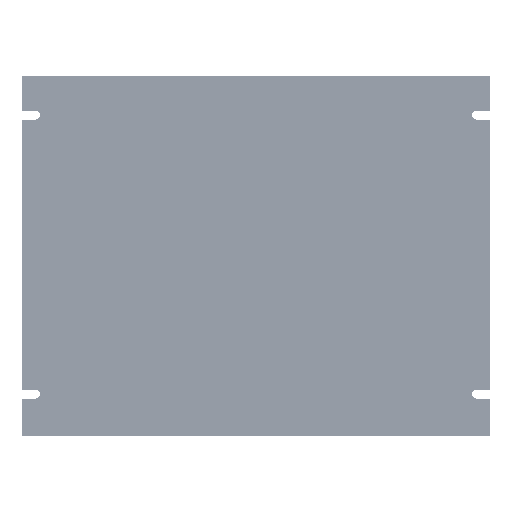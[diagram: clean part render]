
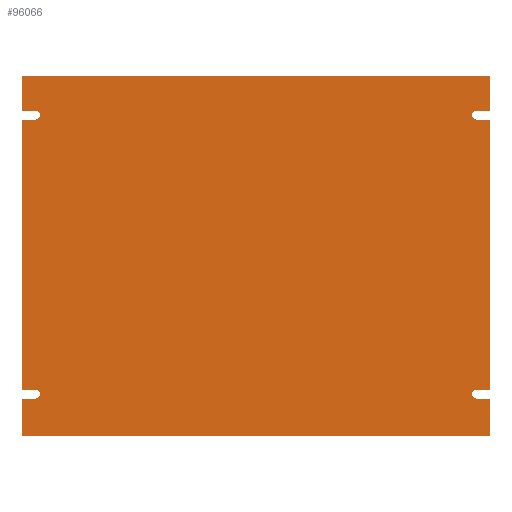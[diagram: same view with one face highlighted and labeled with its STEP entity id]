
A CAD part, top view. The second image highlights one B-rep face of the part: STEP entity #96066.
In plain terms, the highlighted planar face has unit normal (0, 0, 1) as drawn and (0, 0, -1) by its records, which use the part's own axes.
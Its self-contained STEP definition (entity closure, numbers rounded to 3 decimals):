
#6984=CIRCLE('',#103814,0.125);
#6985=CIRCLE('',#103815,0.125);
#6986=CIRCLE('',#103816,0.125);
#6987=CIRCLE('',#103817,0.125);
#11850=FACE_OUTER_BOUND('',#18305,.T.);
#18305=EDGE_LOOP('',(#87363,#87364,#87365,#87366,#87367,#87368,#87369,#87370,
#87371,#87372,#87373,#87374,#87375,#87376,#87377,#87378,#87379,#87380,#87381,
#87382));
#28901=LINE('',#156260,#39545);
#28917=LINE('',#156294,#39561);
#28918=LINE('',#156298,#39562);
#28924=LINE('',#156311,#39568);
#28928=LINE('',#156320,#39572);
#28930=LINE('',#156325,#39574);
#28939=LINE('',#156342,#39583);
#28947=LINE('',#156360,#39591);
#28951=LINE('',#156370,#39595);
#28952=LINE('',#156373,#39596);
#28953=LINE('',#156375,#39597);
#28954=LINE('',#156378,#39598);
#28955=LINE('',#156380,#39599);
#28956=LINE('',#156383,#39600);
#28957=LINE('',#156385,#39601);
#28958=LINE('',#156388,#39602);
#39545=VECTOR('',#129102,1.038);
#39561=VECTOR('',#129124,1.038);
#39562=VECTOR('',#129127,7.5);
#39568=VECTOR('',#129135,7.5);
#39572=VECTOR('',#129141,0.963);
#39574=VECTOR('',#129145,0.963);
#39583=VECTOR('',#129158,13.);
#39591=VECTOR('',#129174,13.);
#39595=VECTOR('',#129184,0.375);
#39596=VECTOR('',#129187,0.375);
#39597=VECTOR('',#129188,0.375);
#39598=VECTOR('',#129191,0.375);
#39599=VECTOR('',#129192,0.375);
#39600=VECTOR('',#129195,0.375);
#39601=VECTOR('',#129196,0.375);
#39602=VECTOR('',#129199,0.375);
#48206=VERTEX_POINT('',#156257);
#48207=VERTEX_POINT('',#156259);
#48218=VERTEX_POINT('',#156284);
#48222=VERTEX_POINT('',#156292);
#48223=VERTEX_POINT('',#156296);
#48224=VERTEX_POINT('',#156297);
#48229=VERTEX_POINT('',#156308);
#48230=VERTEX_POINT('',#156310);
#48233=VERTEX_POINT('',#156317);
#48234=VERTEX_POINT('',#156319);
#48235=VERTEX_POINT('',#156323);
#48236=VERTEX_POINT('',#156324);
#48251=VERTEX_POINT('',#156369);
#48252=VERTEX_POINT('',#156371);
#48253=VERTEX_POINT('',#156374);
#48254=VERTEX_POINT('',#156376);
#48255=VERTEX_POINT('',#156379);
#48256=VERTEX_POINT('',#156381);
#48257=VERTEX_POINT('',#156384);
#48258=VERTEX_POINT('',#156386);
#61252=EDGE_CURVE('',#48206,#48207,#28901,.T.);
#61268=EDGE_CURVE('',#48222,#48218,#28917,.T.);
#61269=EDGE_CURVE('',#48223,#48224,#28918,.T.);
#61275=EDGE_CURVE('',#48229,#48230,#28924,.T.);
#61279=EDGE_CURVE('',#48233,#48234,#28928,.T.);
#61281=EDGE_CURVE('',#48235,#48236,#28930,.T.);
#61290=EDGE_CURVE('',#48235,#48234,#28939,.T.);
#61301=EDGE_CURVE('',#48206,#48218,#28947,.T.);
#61306=EDGE_CURVE('',#48251,#48222,#28951,.T.);
#61307=EDGE_CURVE('',#48252,#48251,#6984,.T.);
#61308=EDGE_CURVE('',#48224,#48252,#28952,.T.);
#61309=EDGE_CURVE('',#48253,#48223,#28953,.T.);
#61310=EDGE_CURVE('',#48254,#48253,#6985,.T.);
#61311=EDGE_CURVE('',#48236,#48254,#28954,.T.);
#61312=EDGE_CURVE('',#48255,#48233,#28955,.T.);
#61313=EDGE_CURVE('',#48256,#48255,#6986,.T.);
#61314=EDGE_CURVE('',#48230,#48256,#28956,.T.);
#61315=EDGE_CURVE('',#48257,#48229,#28957,.T.);
#61316=EDGE_CURVE('',#48258,#48257,#6987,.T.);
#61317=EDGE_CURVE('',#48207,#48258,#28958,.T.);
#87363=ORIENTED_EDGE('',*,*,#61306,.F.);
#87364=ORIENTED_EDGE('',*,*,#61307,.F.);
#87365=ORIENTED_EDGE('',*,*,#61308,.F.);
#87366=ORIENTED_EDGE('',*,*,#61269,.F.);
#87367=ORIENTED_EDGE('',*,*,#61309,.F.);
#87368=ORIENTED_EDGE('',*,*,#61310,.F.);
#87369=ORIENTED_EDGE('',*,*,#61311,.F.);
#87370=ORIENTED_EDGE('',*,*,#61281,.F.);
#87371=ORIENTED_EDGE('',*,*,#61290,.T.);
#87372=ORIENTED_EDGE('',*,*,#61279,.F.);
#87373=ORIENTED_EDGE('',*,*,#61312,.F.);
#87374=ORIENTED_EDGE('',*,*,#61313,.F.);
#87375=ORIENTED_EDGE('',*,*,#61314,.F.);
#87376=ORIENTED_EDGE('',*,*,#61275,.F.);
#87377=ORIENTED_EDGE('',*,*,#61315,.F.);
#87378=ORIENTED_EDGE('',*,*,#61316,.F.);
#87379=ORIENTED_EDGE('',*,*,#61317,.F.);
#87380=ORIENTED_EDGE('',*,*,#61252,.F.);
#87381=ORIENTED_EDGE('',*,*,#61301,.T.);
#87382=ORIENTED_EDGE('',*,*,#61268,.F.);
#91201=PLANE('',#103813);
#96066=ADVANCED_FACE('',(#11850),#91201,.T.);
#103813=AXIS2_PLACEMENT_3D('',#156368,#129182,#129183);
#103814=AXIS2_PLACEMENT_3D('',#156372,#129185,#129186);
#103815=AXIS2_PLACEMENT_3D('',#156377,#129189,#129190);
#103816=AXIS2_PLACEMENT_3D('',#156382,#129193,#129194);
#103817=AXIS2_PLACEMENT_3D('',#156387,#129197,#129198);
#129102=DIRECTION('',(0.,1.,0.));
#129124=DIRECTION('',(0.,-1.,0.));
#129127=DIRECTION('',(0.,-1.,0.));
#129135=DIRECTION('',(0.,1.,0.));
#129141=DIRECTION('',(0.,1.,0.));
#129145=DIRECTION('',(0.,-1.,0.));
#129158=DIRECTION('',(1.,0.,0.));
#129174=DIRECTION('',(-1.,0.,0.));
#129182=DIRECTION('center_axis',(0.,0.,-1.));
#129183=DIRECTION('ref_axis',(-1.,0.,0.));
#129184=DIRECTION('',(-1.,0.,0.));
#129185=DIRECTION('center_axis',(0.,0.,-1.));
#129186=DIRECTION('ref_axis',(-1.,0.,0.));
#129187=DIRECTION('',(1.,0.,0.));
#129188=DIRECTION('',(-1.,0.,0.));
#129189=DIRECTION('center_axis',(0.,0.,-1.));
#129190=DIRECTION('ref_axis',(-1.,0.,0.));
#129191=DIRECTION('',(1.,0.,0.));
#129192=DIRECTION('',(1.,0.,0.));
#129193=DIRECTION('center_axis',(0.,0.,-1.));
#129194=DIRECTION('ref_axis',(-1.,0.,0.));
#129195=DIRECTION('',(-1.,0.,0.));
#129196=DIRECTION('',(1.,0.,0.));
#129197=DIRECTION('center_axis',(0.,0.,-1.));
#129198=DIRECTION('ref_axis',(-1.,0.,0.));
#129199=DIRECTION('',(-1.,0.,0.));
#156257=CARTESIAN_POINT('',(0.,0.,0.));
#156259=CARTESIAN_POINT('',(0.,1.038,0.));
#156260=CARTESIAN_POINT('',(0.,0.,0.));
#156284=CARTESIAN_POINT('',(-13.,0.,0.));
#156292=CARTESIAN_POINT('',(-13.,1.038,0.));
#156294=CARTESIAN_POINT('',(-13.,1.038,0.));
#156296=CARTESIAN_POINT('',(-13.,8.788,0.));
#156297=CARTESIAN_POINT('',(-13.,1.288,0.));
#156298=CARTESIAN_POINT('',(-13.,8.788,0.));
#156308=CARTESIAN_POINT('',(0.,1.288,0.));
#156310=CARTESIAN_POINT('',(0.,8.788,0.));
#156311=CARTESIAN_POINT('',(0.,1.288,0.));
#156317=CARTESIAN_POINT('',(0.,9.038,0.));
#156319=CARTESIAN_POINT('',(0.,10.,0.));
#156320=CARTESIAN_POINT('',(0.,9.038,0.));
#156323=CARTESIAN_POINT('',(-13.,10.,0.));
#156324=CARTESIAN_POINT('',(-13.,9.038,0.));
#156325=CARTESIAN_POINT('',(-13.,10.,0.));
#156342=CARTESIAN_POINT('',(-13.,10.,0.));
#156360=CARTESIAN_POINT('',(0.,0.,0.));
#156368=CARTESIAN_POINT('Origin',(-13.,0.,0.));
#156369=CARTESIAN_POINT('',(-12.625,1.038,0.));
#156370=CARTESIAN_POINT('',(-12.625,1.038,0.));
#156371=CARTESIAN_POINT('',(-12.625,1.288,0.));
#156372=CARTESIAN_POINT('Origin',(-12.625,1.163,0.));
#156373=CARTESIAN_POINT('',(-13.,1.288,0.));
#156374=CARTESIAN_POINT('',(-12.625,8.788,0.));
#156375=CARTESIAN_POINT('',(-12.625,8.788,0.));
#156376=CARTESIAN_POINT('',(-12.625,9.038,0.));
#156377=CARTESIAN_POINT('Origin',(-12.625,8.913,0.));
#156378=CARTESIAN_POINT('',(-13.,9.038,0.));
#156379=CARTESIAN_POINT('',(-0.375,9.038,0.));
#156380=CARTESIAN_POINT('',(-0.375,9.038,0.));
#156381=CARTESIAN_POINT('',(-0.375,8.788,0.));
#156382=CARTESIAN_POINT('Origin',(-0.375,8.913,0.));
#156383=CARTESIAN_POINT('',(0.,8.788,0.));
#156384=CARTESIAN_POINT('',(-0.375,1.288,0.));
#156385=CARTESIAN_POINT('',(-0.375,1.288,0.));
#156386=CARTESIAN_POINT('',(-0.375,1.038,0.));
#156387=CARTESIAN_POINT('Origin',(-0.375,1.163,0.));
#156388=CARTESIAN_POINT('',(0.,1.038,0.));
